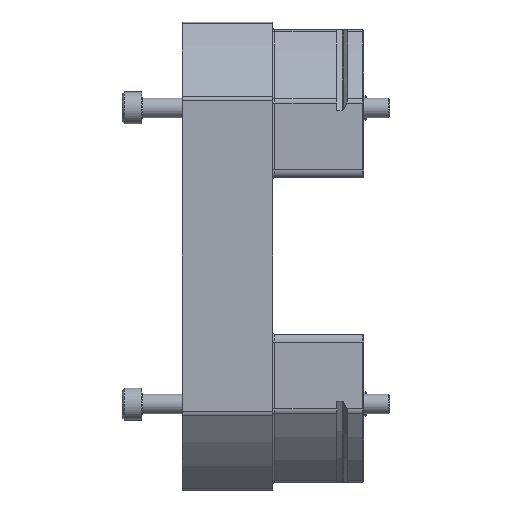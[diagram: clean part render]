
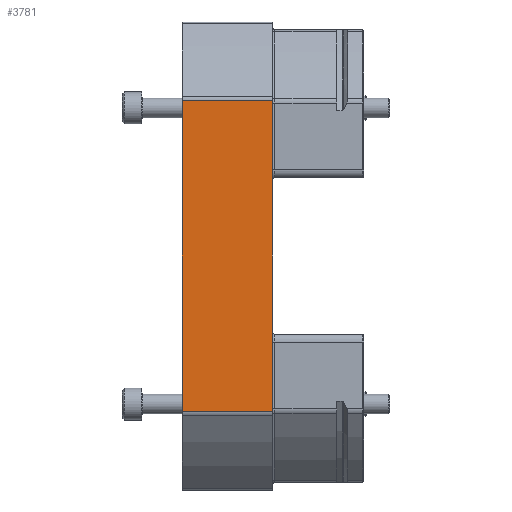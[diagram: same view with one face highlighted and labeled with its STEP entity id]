
A CAD part, left-side view. The second image highlights one B-rep face of the part: STEP entity #3781.
In plain terms, the highlighted planar face has unit normal (-1, 0, 0).
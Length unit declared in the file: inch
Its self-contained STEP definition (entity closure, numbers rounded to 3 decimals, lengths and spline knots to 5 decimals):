
#80 = VECTOR ( 'NONE', #226, 39.37008 ) ;
#226 = DIRECTION ( 'NONE',  ( 0., 0., 1. ) ) ;
#245 = CARTESIAN_POINT ( 'NONE',  ( -1.31, 1.47, 2.47981 ) ) ;
#367 = CARTESIAN_POINT ( 'NONE',  ( -1.31, 0.03, -2.47981 ) ) ;
#395 = VERTEX_POINT ( 'NONE', #245 ) ;
#721 = EDGE_LOOP ( 'NONE', ( #6097, #2717, #4869, #2724 ) ) ;
#835 = LINE ( 'NONE', #5253, #5833 ) ;
#1167 = VERTEX_POINT ( 'NONE', #367 ) ;
#1666 = EDGE_CURVE ( 'NONE', #5648, #395, #835, .T. ) ;
#1866 = CARTESIAN_POINT ( 'NONE',  ( -1.31, 0.03, -3.74016 ) ) ;
#1930 = CARTESIAN_POINT ( 'NONE',  ( -1.31, -1.47, -3.74016 ) ) ;
#1934 = EDGE_CURVE ( 'NONE', #1167, #5648, #5675, .T. ) ;
#2014 = VECTOR ( 'NONE', #4147, 39.37008 ) ;
#2077 = DIRECTION ( 'NONE',  ( 0., 0., 1. ) ) ;
#2438 = DIRECTION ( 'NONE',  ( 0., -1., 0. ) ) ;
#2717 = ORIENTED_EDGE ( 'NONE', *, *, #1934, .T. ) ;
#2724 = ORIENTED_EDGE ( 'NONE', *, *, #5442, .F. ) ;
#2878 = EDGE_CURVE ( 'NONE', #3269, #1167, #4714, .T. ) ;
#3062 = FACE_OUTER_BOUND ( 'NONE', #721, .T. ) ;
#3269 = VERTEX_POINT ( 'NONE', #4842 ) ;
#3781 = ADVANCED_FACE ( 'NONE', ( #3062 ), #6391, .T. ) ;
#4144 = DIRECTION ( 'NONE',  ( -1., 0., 0. ) ) ;
#4147 = DIRECTION ( 'NONE',  ( 0., 0., 1. ) ) ;
#4709 = DIRECTION ( 'NONE',  ( 0., 1., 0. ) ) ;
#4714 = LINE ( 'NONE', #6995, #4900 ) ;
#4842 = CARTESIAN_POINT ( 'NONE',  ( -1.31, 1.47, -2.47981 ) ) ;
#4869 = ORIENTED_EDGE ( 'NONE', *, *, #1666, .T. ) ;
#4900 = VECTOR ( 'NONE', #2438, 39.37008 ) ;
#5231 = LINE ( 'NONE', #6287, #80 ) ;
#5253 = CARTESIAN_POINT ( 'NONE',  ( -1.31, -1.47, 2.47981 ) ) ;
#5442 = EDGE_CURVE ( 'NONE', #3269, #395, #5231, .T. ) ;
#5648 = VERTEX_POINT ( 'NONE', #6341 ) ;
#5675 = LINE ( 'NONE', #1866, #2014 ) ;
#5833 = VECTOR ( 'NONE', #4709, 39.37008 ) ;
#5838 = AXIS2_PLACEMENT_3D ( 'NONE', #1930, #4144, #2077 ) ;
#6097 = ORIENTED_EDGE ( 'NONE', *, *, #2878, .T. ) ;
#6287 = CARTESIAN_POINT ( 'NONE',  ( -1.31, 1.47, -3.74016 ) ) ;
#6341 = CARTESIAN_POINT ( 'NONE',  ( -1.31, 0.03, 2.47981 ) ) ;
#6391 = PLANE ( 'NONE',  #5838 ) ;
#6995 = CARTESIAN_POINT ( 'NONE',  ( -1.31, -1.47, -2.47981 ) ) ;
